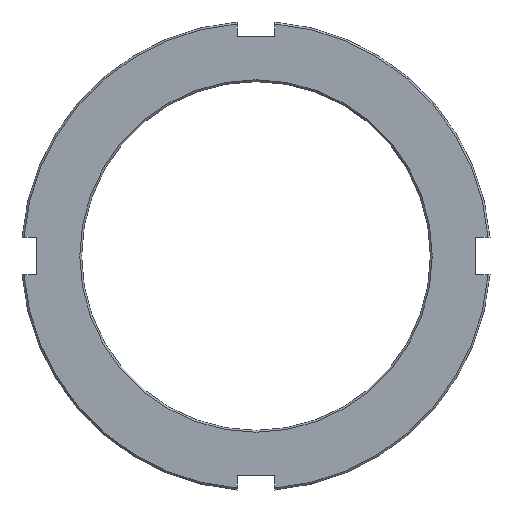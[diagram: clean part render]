
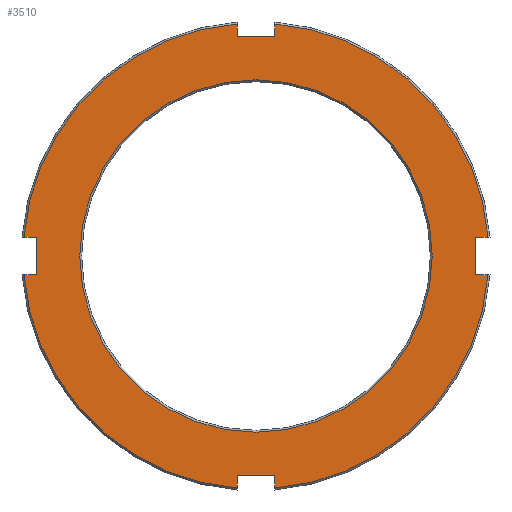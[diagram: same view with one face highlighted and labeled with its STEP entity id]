
A CAD part, front view. The second image highlights one B-rep face of the part: STEP entity #3510.
In plain terms, the highlighted planar face has unit normal (0, -1, 0).
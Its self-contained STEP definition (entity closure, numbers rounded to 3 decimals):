
#49=CIRCLE('',#3655,46.918);
#53=CIRCLE('',#3661,62.);
#54=CIRCLE('',#3662,62.);
#55=CIRCLE('',#3663,62.);
#56=CIRCLE('',#3664,62.);
#86=FACE_BOUND('',#649,.T.);
#443=FACE_OUTER_BOUND('',#648,.T.);
#648=EDGE_LOOP('',(#3080,#3081,#3082,#3083,#3084,#3085,#3086,#3087,#3088,
#3089,#3090,#3091,#3092,#3093,#3094,#3095));
#649=EDGE_LOOP('',(#3096));
#980=LINE('',#6085,#1323);
#981=LINE('',#6087,#1324);
#982=LINE('',#6089,#1325);
#983=LINE('',#6093,#1326);
#984=LINE('',#6095,#1327);
#985=LINE('',#6097,#1328);
#986=LINE('',#6101,#1329);
#987=LINE('',#6103,#1330);
#988=LINE('',#6105,#1331);
#989=LINE('',#6109,#1332);
#990=LINE('',#6111,#1333);
#991=LINE('',#6112,#1334);
#1323=VECTOR('',#4215,10.);
#1324=VECTOR('',#4216,10.);
#1325=VECTOR('',#4217,10.);
#1326=VECTOR('',#4220,10.);
#1327=VECTOR('',#4221,10.);
#1328=VECTOR('',#4222,10.);
#1329=VECTOR('',#4225,10.);
#1330=VECTOR('',#4226,10.);
#1331=VECTOR('',#4227,10.);
#1332=VECTOR('',#4230,10.);
#1333=VECTOR('',#4231,10.);
#1334=VECTOR('',#4232,10.);
#1653=VERTEX_POINT('',#6069);
#1657=VERTEX_POINT('',#6081);
#1658=VERTEX_POINT('',#6082);
#1659=VERTEX_POINT('',#6084);
#1660=VERTEX_POINT('',#6086);
#1661=VERTEX_POINT('',#6088);
#1662=VERTEX_POINT('',#6090);
#1663=VERTEX_POINT('',#6092);
#1664=VERTEX_POINT('',#6094);
#1665=VERTEX_POINT('',#6096);
#1666=VERTEX_POINT('',#6098);
#1667=VERTEX_POINT('',#6100);
#1668=VERTEX_POINT('',#6102);
#1669=VERTEX_POINT('',#6104);
#1670=VERTEX_POINT('',#6106);
#1671=VERTEX_POINT('',#6108);
#1672=VERTEX_POINT('',#6110);
#2137=EDGE_CURVE('',#1653,#1653,#49,.T.);
#2143=EDGE_CURVE('',#1657,#1658,#53,.T.);
#2144=EDGE_CURVE('',#1657,#1659,#980,.T.);
#2145=EDGE_CURVE('',#1659,#1660,#981,.T.);
#2146=EDGE_CURVE('',#1660,#1661,#982,.T.);
#2147=EDGE_CURVE('',#1662,#1661,#54,.T.);
#2148=EDGE_CURVE('',#1662,#1663,#983,.T.);
#2149=EDGE_CURVE('',#1663,#1664,#984,.T.);
#2150=EDGE_CURVE('',#1664,#1665,#985,.T.);
#2151=EDGE_CURVE('',#1666,#1665,#55,.T.);
#2152=EDGE_CURVE('',#1666,#1667,#986,.T.);
#2153=EDGE_CURVE('',#1667,#1668,#987,.T.);
#2154=EDGE_CURVE('',#1668,#1669,#988,.T.);
#2155=EDGE_CURVE('',#1670,#1669,#56,.T.);
#2156=EDGE_CURVE('',#1670,#1671,#989,.T.);
#2157=EDGE_CURVE('',#1671,#1672,#990,.T.);
#2158=EDGE_CURVE('',#1672,#1658,#991,.T.);
#3080=ORIENTED_EDGE('',*,*,#2143,.F.);
#3081=ORIENTED_EDGE('',*,*,#2144,.T.);
#3082=ORIENTED_EDGE('',*,*,#2145,.T.);
#3083=ORIENTED_EDGE('',*,*,#2146,.T.);
#3084=ORIENTED_EDGE('',*,*,#2147,.F.);
#3085=ORIENTED_EDGE('',*,*,#2148,.T.);
#3086=ORIENTED_EDGE('',*,*,#2149,.T.);
#3087=ORIENTED_EDGE('',*,*,#2150,.T.);
#3088=ORIENTED_EDGE('',*,*,#2151,.F.);
#3089=ORIENTED_EDGE('',*,*,#2152,.T.);
#3090=ORIENTED_EDGE('',*,*,#2153,.T.);
#3091=ORIENTED_EDGE('',*,*,#2154,.T.);
#3092=ORIENTED_EDGE('',*,*,#2155,.F.);
#3093=ORIENTED_EDGE('',*,*,#2156,.T.);
#3094=ORIENTED_EDGE('',*,*,#2157,.T.);
#3095=ORIENTED_EDGE('',*,*,#2158,.T.);
#3096=ORIENTED_EDGE('',*,*,#2137,.F.);
#3335=PLANE('',#3660);
#3510=ADVANCED_FACE('',(#443,#86),#3335,.F.);
#3655=AXIS2_PLACEMENT_3D('',#6070,#4199,#4200);
#3660=AXIS2_PLACEMENT_3D('',#6080,#4211,#4212);
#3661=AXIS2_PLACEMENT_3D('',#6083,#4213,#4214);
#3662=AXIS2_PLACEMENT_3D('',#6091,#4218,#4219);
#3663=AXIS2_PLACEMENT_3D('',#6099,#4223,#4224);
#3664=AXIS2_PLACEMENT_3D('',#6107,#4228,#4229);
#4199=DIRECTION('center_axis',(0.,-1.,0.));
#4200=DIRECTION('ref_axis',(1.,0.,0.));
#4211=DIRECTION('center_axis',(0.,1.,0.));
#4212=DIRECTION('ref_axis',(0.,0.,1.));
#4213=DIRECTION('center_axis',(0.,1.,0.));
#4214=DIRECTION('ref_axis',(0.997,0.,-0.08));
#4215=DIRECTION('',(-1.,0.,0.));
#4216=DIRECTION('',(0.,0.,1.));
#4217=DIRECTION('',(1.,0.,0.));
#4218=DIRECTION('center_axis',(0.,1.,0.));
#4219=DIRECTION('ref_axis',(0.08,0.,0.997));
#4220=DIRECTION('',(0.,0.,-1.));
#4221=DIRECTION('',(-1.,0.,0.));
#4222=DIRECTION('',(0.,0.,1.));
#4223=DIRECTION('center_axis',(0.,1.,0.));
#4224=DIRECTION('ref_axis',(-0.997,0.,0.08));
#4225=DIRECTION('',(1.,0.,0.));
#4226=DIRECTION('',(0.,0.,-1.));
#4227=DIRECTION('',(-1.,0.,0.));
#4228=DIRECTION('center_axis',(0.,1.,0.));
#4229=DIRECTION('ref_axis',(-0.08,0.,-0.997));
#4230=DIRECTION('',(0.,0.,1.));
#4231=DIRECTION('',(1.,0.,0.));
#4232=DIRECTION('',(0.,0.,-1.));
#6069=CARTESIAN_POINT('',(-46.918,0.,0.));
#6070=CARTESIAN_POINT('Origin',(0.,0.,0.));
#6080=CARTESIAN_POINT('Origin',(0.,0.,0.));
#6081=CARTESIAN_POINT('',(61.798,0.,-5.));
#6082=CARTESIAN_POINT('',(5.,0.,-61.798));
#6083=CARTESIAN_POINT('Origin',(0.,0.,0.));
#6084=CARTESIAN_POINT('',(58.5,0.,-5.));
#6085=CARTESIAN_POINT('',(62.3,0.,-5.));
#6086=CARTESIAN_POINT('',(58.5,0.,5.));
#6087=CARTESIAN_POINT('',(58.5,0.,-5.));
#6088=CARTESIAN_POINT('',(61.798,0.,5.));
#6089=CARTESIAN_POINT('',(58.5,0.,5.));
#6090=CARTESIAN_POINT('',(5.,0.,61.798));
#6091=CARTESIAN_POINT('Origin',(0.,0.,0.));
#6092=CARTESIAN_POINT('',(5.,0.,58.5));
#6093=CARTESIAN_POINT('',(5.,0.,62.3));
#6094=CARTESIAN_POINT('',(-5.,0.,58.5));
#6095=CARTESIAN_POINT('',(5.,0.,58.5));
#6096=CARTESIAN_POINT('',(-5.,0.,61.798));
#6097=CARTESIAN_POINT('',(-5.,0.,58.5));
#6098=CARTESIAN_POINT('',(-61.798,0.,5.));
#6099=CARTESIAN_POINT('Origin',(0.,0.,0.));
#6100=CARTESIAN_POINT('',(-58.5,0.,5.));
#6101=CARTESIAN_POINT('',(-62.3,0.,5.));
#6102=CARTESIAN_POINT('',(-58.5,0.,-5.));
#6103=CARTESIAN_POINT('',(-58.5,0.,5.));
#6104=CARTESIAN_POINT('',(-61.798,0.,-5.));
#6105=CARTESIAN_POINT('',(-58.5,0.,-5.));
#6106=CARTESIAN_POINT('',(-5.,0.,-61.798));
#6107=CARTESIAN_POINT('Origin',(0.,0.,0.));
#6108=CARTESIAN_POINT('',(-5.,0.,-58.5));
#6109=CARTESIAN_POINT('',(-5.,0.,-62.3));
#6110=CARTESIAN_POINT('',(5.,0.,-58.5));
#6111=CARTESIAN_POINT('',(-5.,0.,-58.5));
#6112=CARTESIAN_POINT('',(5.,0.,-58.5));
